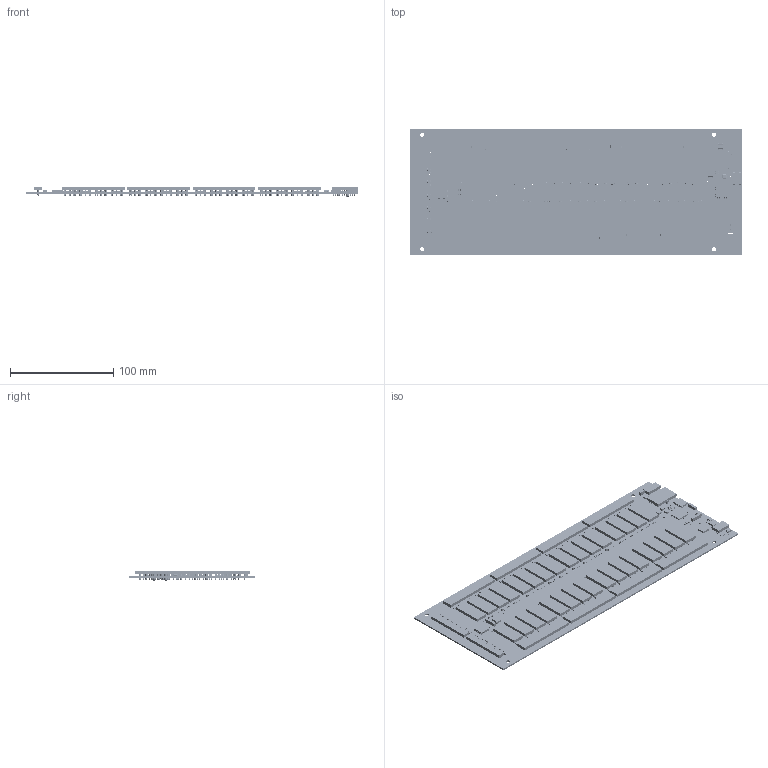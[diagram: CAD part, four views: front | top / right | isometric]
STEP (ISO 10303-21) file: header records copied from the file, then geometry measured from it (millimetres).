
FILE_DESCRIPTION(('PCB Model'),'2;1');
FILE_NAME('Z:\Proteus8\Relay TCPIP\ds2832-B.STEP', '2021-10-27T11:14:52',('chris'),('Unspecified'), 'Open CASCADE STEP processor 6.8','Proteus','Unknown');
FILE_SCHEMA(('CONFIG_CONTROL_DESIGN','SHAPE_APPEARANCE_LAYER_MIM'));
Length unit declared in the file: millimetre
Products named in the file (816): Open CASCADE STEP translator 6.8 1; Layer_1; PL34; Open CASCADE STEP translator 6.8 1.2.1; Body_1; Pin_1; Pin_2; Pin_3; PL15; PL16; PL17; PL18; PL19; PL20; PL21; PL22; PL23; PL30; PL31; PL32; PL33; RL3; Open CASCADE STEP translator 6.8 1.16.1; Pin_4; Pin_5; Pin_6; Pin_7; Pin_8; RL1; RL2; RL4; RL5; RL6; RL7; RL8; RL17; RL18; RL19; RL20; PL3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
Assembly tree (1246 placements, depth 4):
  Open CASCADE STEP translator 6.8 1
    Layer_1
    PL34
      Open CASCADE STEP translator 6.8 1.2.1
        Body_1
        Pin_1
        Pin_2
        Pin_3
    PL15
      Open CASCADE STEP translator 6.8 1.2.1
        Body_1
        Pin_1
        Pin_2
        Pin_3
    PL16
      Open CASCADE STEP translator 6.8 1.2.1
        Body_1
        Pin_1
        Pin_2
        Pin_3
    PL17
      Open CASCADE STEP translator 6.8 1.2.1
        Body_1
        Pin_1
        Pin_2
        Pin_3
    PL18
      Open CASCADE STEP translator 6.8 1.2.1
        Body_1
        Pin_1
        Pin_2
        Pin_3
    PL19
      Open CASCADE STEP translator 6.8 1.2.1
        Body_1
        Pin_1
        Pin_2
        Pin_3
    PL20
      Open CASCADE STEP translator 6.8 1.2.1
        Body_1
        Pin_1
        Pin_2
        Pin_3
    PL21
      Open CASCADE STEP translator 6.8 1.2.1
        Body_1
        Pin_1
        Pin_2
        Pin_3
    PL22
      Open CASCADE STEP translator 6.8 1.2.1
        Body_1
        Pin_1
        Pin_2
        Pin_3
    PL23
      Open CASCADE STEP translator 6.8 1.2.1
        Body_1
        Pin_1
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Bounding box: 322.06 x 123 x 9.6 mm (x, y, z)
Volume: 122004.1 mm3; surface area: 155150 mm2
Topology: 1916 solids, 1916 shells, 19786 faces, 48590 edges, 30970 vertices
Faces by surface type: plane 12731, cylinder 5385, sphere 1668, torus 2
Entity records: 193990 total; most frequent: DIRECTION 27009, CARTESIAN_POINT 26601, ORIENTED_EDGE 23360, EDGE_CURVE 11680, AXIS2_PLACEMENT_3D 10339, VERTEX_POINT 7736, LINE 6331, VECTOR 6331
